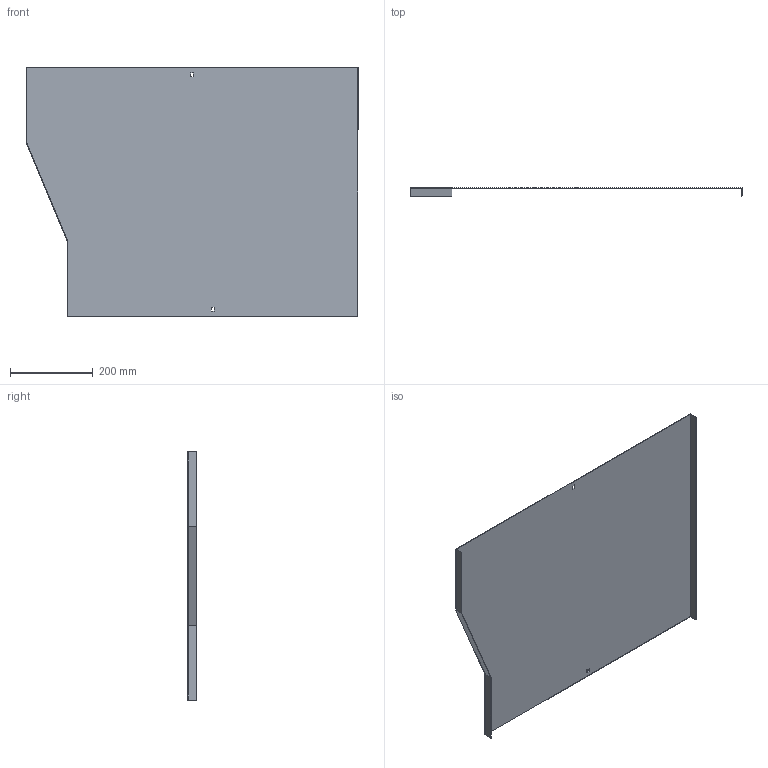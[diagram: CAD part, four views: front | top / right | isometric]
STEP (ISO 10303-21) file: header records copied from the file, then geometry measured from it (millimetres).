
FILE_DESCRIPTION (( 'STEP AP214' ), '1' );
FILE_NAME ('B2X21N7R800X.step', '2025-09-02T15:45:01', ( '' ), ( '' ), 'SwSTEP 2.0', 'SolidWorks 2023', '' );
FILE_SCHEMA (( 'AUTOMOTIVE_DESIGN' ));
Length unit declared in the file: millimetre
Products named in the file (1): B2X21N7R800X
Bounding box: 803 x 20 x 600 mm (x, y, z)
Volume: 711379.5 mm3; surface area: 952799 mm2
Topology: 1 solids, 1 shells, 22 faces, 60 edges, 40 vertices
Faces by surface type: plane 22
Entity records: 715 total; most frequent: CARTESIAN_POINT 123, ORIENTED_EDGE 120, DIRECTION 106, EDGE_CURVE 60, LINE 60, VECTOR 60, VERTEX_POINT 40, EDGE_LOOP 26
